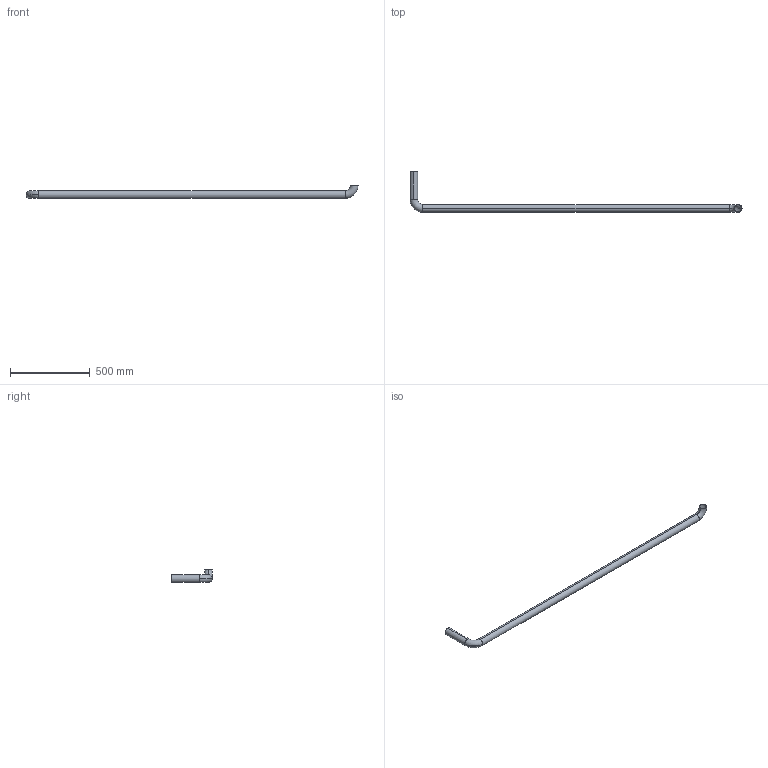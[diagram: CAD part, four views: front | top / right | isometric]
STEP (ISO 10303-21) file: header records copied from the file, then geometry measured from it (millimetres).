
FILE_DESCRIPTION (( 'STEP AP214' ), '1' );
FILE_NAME ('CCJ029-REP.201 - MAIN COURANTE PLATEFORME INTERMEDIAIRE.STEP', '2025-10-30T15:31:21', ( '' ), ( '' ), 'SwSTEP 2.0', 'SolidWorks 2021', '' );
FILE_SCHEMA (( 'AUTOMOTIVE_DESIGN' ));
Length unit declared in the file: millimetre
Products named in the file (1): CCJ029-REP.201 - MAIN COURANTE PLATEFORME INTERMEDIAIRE
Bounding box: 2083.3 x 254.15 x 81.15 mm (x, y, z)
Volume: 817651.7 mm3; surface area: 654840.7 mm2
Topology: 1 solids, 1 shells, 18 faces, 44 edges, 28 vertices
Faces by surface type: torus 8, cylinder 8, plane 2
Entity records: 590 total; most frequent: DIRECTION 118, CARTESIAN_POINT 91, ORIENTED_EDGE 88, AXIS2_PLACEMENT_3D 55, EDGE_CURVE 44, CIRCLE 36, VERTEX_POINT 28, EDGE_LOOP 20
